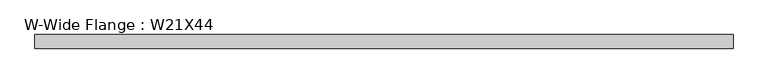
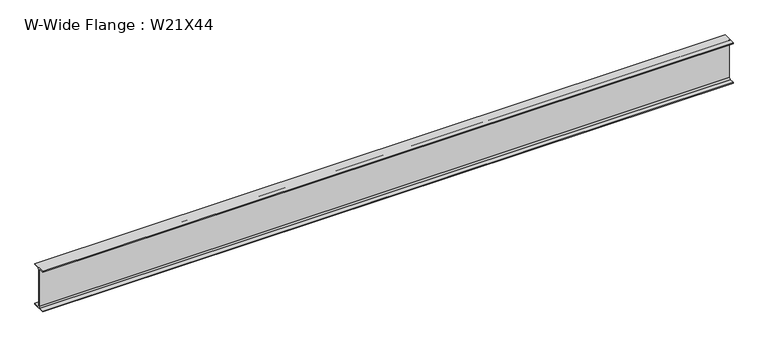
"""IFC4 building model written with IfcOpenShell, lengths in millimetres: beam geometry, W-Wide Flange : W21X44."""

from ifc_helpers import new_model, si_unit, point, frame, frame_2d, origin, place, context, project, spatial, polyline, circle_curve, trimmed, segment, composite_curve, outline, extrude, source, transform, mapped, element, save


def w_wide_flange_w21x44_feb090a0(model_context):
    return source(origin(), model_context, "Body", "SweptSolid", [
        extrude(outline(composite_curve([segment(polyline([(82.55, -251.46), (82.55, -262.89), (-82.55, -262.89), (-82.55, -251.46), (-21.59, -251.46)]), True, "CONTINUOUS"), segment(trimmed(circle_curve(frame_2d((-21.59, -234.315)), 17.145), [point((-21.59, -251.46))], [point((-4.445, -234.315))], True, "CARTESIAN"), True, "CONTINUOUS"), segment(polyline([(-4.445, -234.315), (-4.445, 234.315)]), True, "CONTINUOUS"), segment(trimmed(circle_curve(frame_2d((-21.59, 234.315)), 17.145), [point((-4.445, 234.315))], [point((-21.59, 251.46))], True, "CARTESIAN"), True, "CONTINUOUS"), segment(polyline([(-21.59, 251.46), (-82.55, 251.46), (-82.55, 262.89), (82.55, 262.89), (82.55, 251.46), (21.59, 251.46)]), True, "CONTINUOUS"), segment(trimmed(circle_curve(frame_2d((21.59, 234.315)), 17.145), [point((21.59, 251.46))], [point((4.445, 234.315))], True, "CARTESIAN"), True, "CONTINUOUS"), segment(polyline([(4.445, 234.315), (4.445, -234.315)]), True, "CONTINUOUS"), segment(trimmed(circle_curve(frame_2d((21.59, -234.315)), 17.145), [point((4.445, -234.315))], [point((21.59, -251.46))], True, "CARTESIAN"), True, "CONTINUOUS"), segment(polyline([(21.59, -251.46), (82.55, -251.46)]), True, "CONTINUOUS")], self_intersect=False)), frame((-4220.21, 0.0, 0.0), z_axis=(1.0, 0.0, 0.0), x_axis=(0.0, 1.0, 0.0)), (0.0, 0.0, 1.0), 8440.42),
    ])


if __name__ == "__main__":
    model = new_model("IFC4")
    model_context = context("Model", 3, world=origin())
    ifc_project = project(units=[si_unit("LENGTHUNIT", "METRE", prefix="MILLI")], contexts=[model_context])
    site = spatial("IfcSite", under=ifc_project)
    building = spatial("IfcBuilding", under=site)
    placement = place(None, origin())
    w_wide_flange_w21x44_shape = w_wide_flange_w21x44_feb090a0(model_context)
    element("IfcBeam", 1, ObjectType="W-Wide Flange : W21X44", at=placement, inside=building, context=model_context, shape_type="MappedRepresentation", body=[
        mapped(w_wide_flange_w21x44_shape, transform((0.0, 0.0, 0.0), x_axis=(1.0, 0.0, 0.0), y_axis=(0.0, 1.0, 0.0), z_axis=(0.0, 0.0, 1.0))),
    ])
    save(model, "model.ifc")
